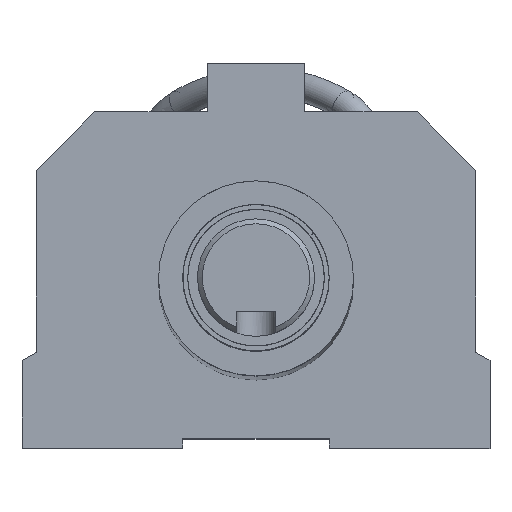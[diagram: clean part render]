
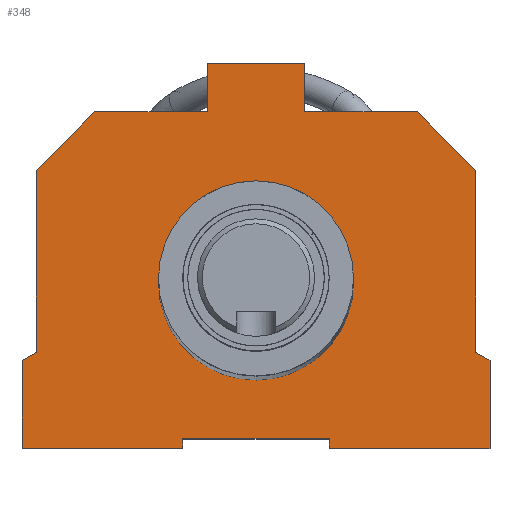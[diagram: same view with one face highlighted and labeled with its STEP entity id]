
A CAD part, top view. The second image highlights one B-rep face of the part: STEP entity #348.
In plain terms, the highlighted planar face has unit normal (0, 0, 1).
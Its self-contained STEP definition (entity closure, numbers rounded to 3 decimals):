
#161=LINE('',#4516,#235);
#164=LINE('',#4552,#238);
#185=LINE('',#4596,#259);
#188=LINE('',#4602,#262);
#191=LINE('',#4612,#265);
#193=LINE('',#4620,#267);
#194=LINE('',#4622,#268);
#195=LINE('',#4625,#269);
#196=LINE('',#4626,#270);
#197=LINE('',#4627,#271);
#198=LINE('',#4629,#272);
#199=LINE('',#4631,#273);
#200=LINE('',#4632,#274);
#201=LINE('',#4634,#275);
#202=LINE('',#4636,#276);
#203=LINE('',#4637,#277);
#204=LINE('',#4639,#278);
#205=LINE('',#4641,#279);
#235=VECTOR('',#1538,1.);
#238=VECTOR('',#1547,1.);
#259=VECTOR('',#1574,1.);
#262=VECTOR('',#1579,1.);
#265=VECTOR('',#1588,1.);
#267=VECTOR('',#1596,1.);
#268=VECTOR('',#1599,1.);
#269=VECTOR('',#1600,1.);
#270=VECTOR('',#1601,1.);
#271=VECTOR('',#1602,1.);
#272=VECTOR('',#1603,1.);
#273=VECTOR('',#1604,1.);
#274=VECTOR('',#1605,1.);
#275=VECTOR('',#1606,1.);
#276=VECTOR('',#1607,1.);
#277=VECTOR('',#1608,1.);
#278=VECTOR('',#1609,1.);
#279=VECTOR('',#1610,1.);
#348=ADVANCED_FACE('',(#479,#480),#418,.T.);
#418=PLANE('',#1347);
#479=FACE_BOUND('',#605,.T.);
#480=FACE_BOUND('',#606,.T.);
#605=EDGE_LOOP('',(#837,#838,#839,#840,#841,#842,#843,#844,#845,#846,#847,
#848,#849,#850,#851,#852,#853,#854));
#606=EDGE_LOOP('',(#855));
#837=ORIENTED_EDGE('',*,*,#1181,.T.);
#838=ORIENTED_EDGE('',*,*,#1182,.T.);
#839=ORIENTED_EDGE('',*,*,#1139,.T.);
#840=ORIENTED_EDGE('',*,*,#1183,.T.);
#841=ORIENTED_EDGE('',*,*,#1146,.T.);
#842=ORIENTED_EDGE('',*,*,#1184,.T.);
#843=ORIENTED_EDGE('',*,*,#1185,.F.);
#844=ORIENTED_EDGE('',*,*,#1186,.F.);
#845=ORIENTED_EDGE('',*,*,#1180,.T.);
#846=ORIENTED_EDGE('',*,*,#1171,.T.);
#847=ORIENTED_EDGE('',*,*,#1187,.F.);
#848=ORIENTED_EDGE('',*,*,#1188,.F.);
#849=ORIENTED_EDGE('',*,*,#1189,.F.);
#850=ORIENTED_EDGE('',*,*,#1176,.T.);
#851=ORIENTED_EDGE('',*,*,#1168,.F.);
#852=ORIENTED_EDGE('',*,*,#1190,.F.);
#853=ORIENTED_EDGE('',*,*,#1191,.T.);
#854=ORIENTED_EDGE('',*,*,#1192,.T.);
#855=ORIENTED_EDGE('',*,*,#1193,.F.);
#1009=VERTEX_POINT('',#4514);
#1011=VERTEX_POINT('',#4517);
#1017=VERTEX_POINT('',#4553);
#1018=VERTEX_POINT('',#4554);
#1036=VERTEX_POINT('',#4595);
#1037=VERTEX_POINT('',#4597);
#1038=VERTEX_POINT('',#4601);
#1039=VERTEX_POINT('',#4603);
#1042=VERTEX_POINT('',#4611);
#1045=VERTEX_POINT('',#4619);
#1046=VERTEX_POINT('',#4623);
#1047=VERTEX_POINT('',#4624);
#1048=VERTEX_POINT('',#4628);
#1049=VERTEX_POINT('',#4630);
#1050=VERTEX_POINT('',#4633);
#1051=VERTEX_POINT('',#4635);
#1052=VERTEX_POINT('',#4638);
#1053=VERTEX_POINT('',#4640);
#1054=VERTEX_POINT('',#4643);
#1139=EDGE_CURVE('',#1011,#1009,#161,.T.);
#1146=EDGE_CURVE('',#1017,#1018,#164,.T.);
#1168=EDGE_CURVE('',#1036,#1037,#185,.T.);
#1171=EDGE_CURVE('',#1039,#1038,#188,.T.);
#1176=EDGE_CURVE('',#1042,#1037,#191,.T.);
#1180=EDGE_CURVE('',#1045,#1039,#193,.T.);
#1181=EDGE_CURVE('',#1046,#1047,#194,.T.);
#1182=EDGE_CURVE('',#1047,#1011,#195,.T.);
#1183=EDGE_CURVE('',#1009,#1017,#196,.T.);
#1184=EDGE_CURVE('',#1018,#1048,#197,.T.);
#1185=EDGE_CURVE('',#1049,#1048,#198,.T.);
#1186=EDGE_CURVE('',#1045,#1049,#199,.T.);
#1187=EDGE_CURVE('',#1050,#1038,#200,.T.);
#1188=EDGE_CURVE('',#1051,#1050,#201,.T.);
#1189=EDGE_CURVE('',#1042,#1051,#202,.T.);
#1190=EDGE_CURVE('',#1052,#1036,#203,.T.);
#1191=EDGE_CURVE('',#1052,#1053,#204,.T.);
#1192=EDGE_CURVE('',#1053,#1046,#205,.T.);
#1193=EDGE_CURVE('',#1054,#1054,#1258,.T.);
#1258=CIRCLE('',#1346,10.);
#1346=AXIS2_PLACEMENT_3D('',#4642,#1611,#1612);
#1347=AXIS2_PLACEMENT_3D('',#4644,#1613,#1614);
#1538=DIRECTION('',(-1.,0.,0.));
#1547=DIRECTION('',(-1.,0.,0.));
#1574=DIRECTION('',(0.,-1.,0.));
#1579=DIRECTION('',(1.,0.,0.));
#1588=DIRECTION('',(1.,0.,0.));
#1596=DIRECTION('',(0.,-1.,0.));
#1599=DIRECTION('',(-1.,0.,0.));
#1600=DIRECTION('',(0.,1.,0.));
#1601=DIRECTION('',(0.,-1.,0.));
#1602=DIRECTION('',(-0.707,-0.707,0.));
#1603=DIRECTION('',(0.,1.,0.));
#1604=DIRECTION('',(0.866,0.5,0.));
#1605=DIRECTION('',(0.,-1.,0.));
#1606=DIRECTION('',(-1.,0.,0.));
#1607=DIRECTION('',(0.,1.,0.));
#1608=DIRECTION('',(0.866,-0.5,0.));
#1609=DIRECTION('',(0.,1.,0.));
#1610=DIRECTION('',(-0.707,0.707,0.));
#1611=DIRECTION('',(0.,0.,1.));
#1612=DIRECTION('',(0.,-1.,0.));
#1613=DIRECTION('',(0.,0.,1.));
#1614=DIRECTION('',(0.,-1.,0.));
#4514=CARTESIAN_POINT('',(19.,22.5,52.5));
#4516=CARTESIAN_POINT('',(24.,22.5,52.5));
#4517=CARTESIAN_POINT('',(29.,22.5,52.5));
#4552=CARTESIAN_POINT('',(24.,17.5,52.5));
#4553=CARTESIAN_POINT('',(19.,17.5,52.5));
#4554=CARTESIAN_POINT('',(7.464,17.5,52.5));
#4595=CARTESIAN_POINT('',(48.,-8.,52.5));
#4596=CARTESIAN_POINT('',(48.,17.5,52.5));
#4597=CARTESIAN_POINT('',(48.,-17.,52.5));
#4601=CARTESIAN_POINT('',(16.5,-17.,52.5));
#4602=CARTESIAN_POINT('',(24.,-17.,52.5));
#4603=CARTESIAN_POINT('',(0.,-17.,52.5));
#4611=CARTESIAN_POINT('',(31.5,-17.,52.5));
#4612=CARTESIAN_POINT('',(24.,-17.,52.5));
#4619=CARTESIAN_POINT('',(0.,-8.,52.5));
#4620=CARTESIAN_POINT('',(0.,17.5,52.5));
#4622=CARTESIAN_POINT('',(24.,17.5,52.5));
#4623=CARTESIAN_POINT('',(40.536,17.5,52.5));
#4624=CARTESIAN_POINT('',(29.,17.5,52.5));
#4625=CARTESIAN_POINT('',(29.,17.5,52.5));
#4626=CARTESIAN_POINT('',(19.,17.5,52.5));
#4627=CARTESIAN_POINT('',(15.732,25.768,52.5));
#4628=CARTESIAN_POINT('',(1.464,11.5,52.5));
#4629=CARTESIAN_POINT('',(1.464,17.5,52.5));
#4630=CARTESIAN_POINT('',(1.464,-7.155,52.5));
#4631=CARTESIAN_POINT('',(29.042,8.767,52.5));
#4632=CARTESIAN_POINT('',(16.5,17.5,52.5));
#4633=CARTESIAN_POINT('',(16.5,-16.,52.5));
#4634=CARTESIAN_POINT('',(24.,-16.,52.5));
#4635=CARTESIAN_POINT('',(31.5,-16.,52.5));
#4636=CARTESIAN_POINT('',(31.5,17.5,52.5));
#4637=CARTESIAN_POINT('',(18.958,8.767,52.5));
#4638=CARTESIAN_POINT('',(46.536,-7.155,52.5));
#4639=CARTESIAN_POINT('',(46.536,-6.,52.5));
#4640=CARTESIAN_POINT('',(46.536,11.5,52.5));
#4641=CARTESIAN_POINT('',(32.268,25.768,52.5));
#4642=CARTESIAN_POINT('',(24.,0.,52.5));
#4643=CARTESIAN_POINT('',(24.,-10.,52.5));
#4644=CARTESIAN_POINT('',(24.,17.5,52.5));
